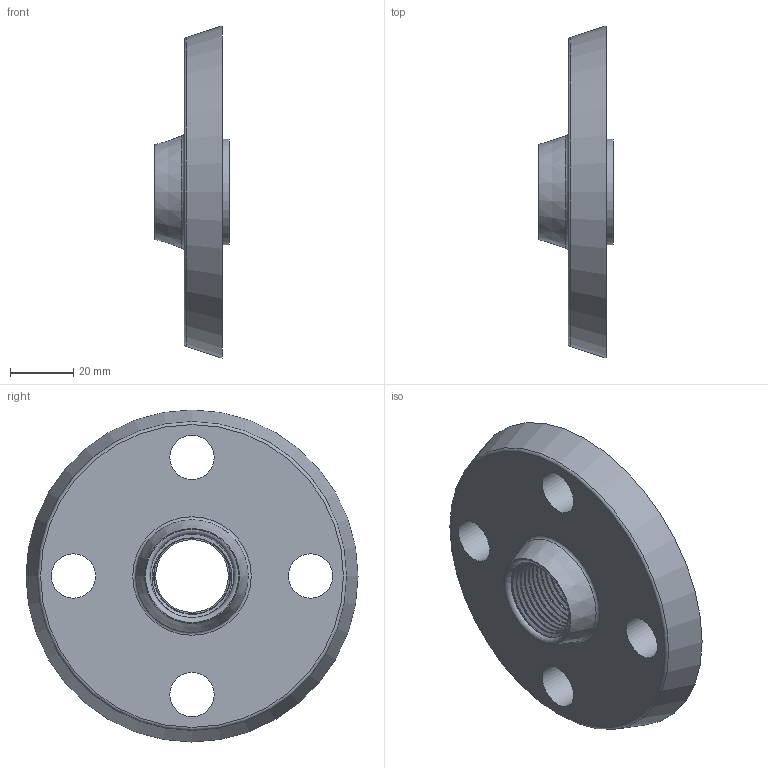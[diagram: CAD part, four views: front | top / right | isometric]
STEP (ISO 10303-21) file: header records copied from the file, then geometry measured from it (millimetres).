
FILE_DESCRIPTION(/* description */ (''),/* implementation_level */ '2;1');
FILE_NAME(/* name */ 'C:\Users\Gabriele\Desktop\disegni 3D\FF01\FF010250.ipt.stp',/* time_stamp */ '2017-01-25T17:53:27+01:00',/* author */ ('Gabriele'),/* organization */ (''),/* preprocessor_version */ 'ST-DEVELOPER v16.5',/* originating_system */ 'Autodesk Inventor 2017',/* authorisation */ '');
FILE_SCHEMA (('AUTOMOTIVE_DESIGN { 1 0 10303 214 3 1 1 }'));
Length unit declared in the file: millimetre
Products named in the file (1): FF010250
Bounding box: 23.5 x 105 x 105 mm (x, y, z)
Volume: 69063.2 mm3; surface area: 33535.1 mm2
Topology: 2 solids, 2 shells, 443 faces, 919 edges, 505 vertices
Faces by surface type: torus 167, cylinder 159, sphere 64, plane 45, bspline 6, cone 2
Full cylindrical faces by diameter (mm): 14 x4, 23 x1, 24.5 x1, 26 x1, 26.44 x2, 27.5 x1, 29 x1, 30.5 x1, 32 x1, 33.5 x1
Entity records: 16089 total; most frequent: CARTESIAN_POINT 6356, DIRECTION 2430, ORIENTED_EDGE 1784, AXIS2_PLACEMENT_3D 1119, EDGE_CURVE 892, CIRCLE 681, EDGE_LOOP 503, VERTEX_POINT 501
